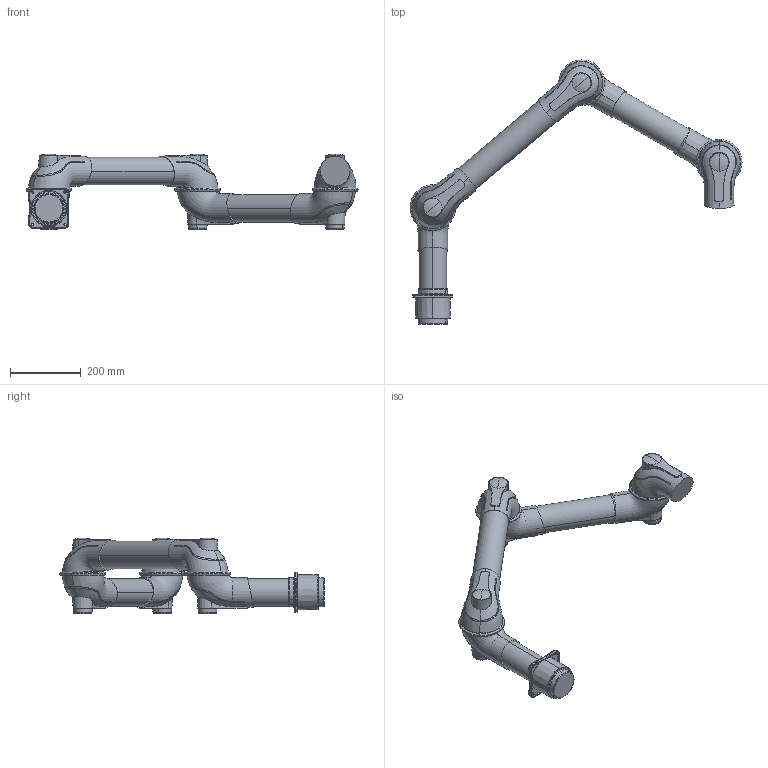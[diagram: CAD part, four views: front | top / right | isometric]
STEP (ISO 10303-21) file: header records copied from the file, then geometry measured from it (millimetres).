
FILE_DESCRIPTION((''),'2;1');
FILE_NAME('102352','2015-10-05T',('Tomas Bellgran'),(''),'PRO/ENGINEER BY PARAMETRIC TECHNOLOGY CORPORATION, 2013410','PRO/ENGINEER BY PARAMETRIC TECHNOLOGY CORPORATION, 2013410','');
FILE_SCHEMA(('AUTOMOTIVE_DESIGN { 1 0 10303 214 1 1 1 1 }'));
Length unit declared in the file: millimetre
Products named in the file (15): 100350; 100455; 102184; 105-5475-01; 102320; 102183; 102329; 102187; 102316; 105-5475-02; 9529063; 105-5481; 101156; 102312; 102352
Assembly tree (21 placements, depth 4):
  102352
    102320
      100350
      100455  x2
      102184
      105-5475-01
    102329
      105-5475-01  x2
      102183
    102316
      102187
      105-5475-01
    102312
      105-5475-02  x2
      9529063
      101156
        105-5481
    101156  x2
      105-5481
Bounding box: 940.55 x 748.29 x 215.04 mm (x, y, z)
Volume: 11806334.6 mm3; surface area: 825881 mm2
Topology: 16 solids, 17 shells, 623 faces, 1580 edges, 993 vertices
Faces by surface type: bspline 240, plane 153, cone 141, torus 46, cylinder 22, sphere 21
Entity records: 43767 total; most frequent: CARTESIAN_POINT 27687, ORIENTED_EDGE 1792, DIRECTION 1206, PRESENTATION_STYLE_ASSIGNMENT 1147, STYLED_ITEM 1147, CURVE_STYLE 896, EDGE_CURVE 896, PROPERTY_DEFINITION 673
